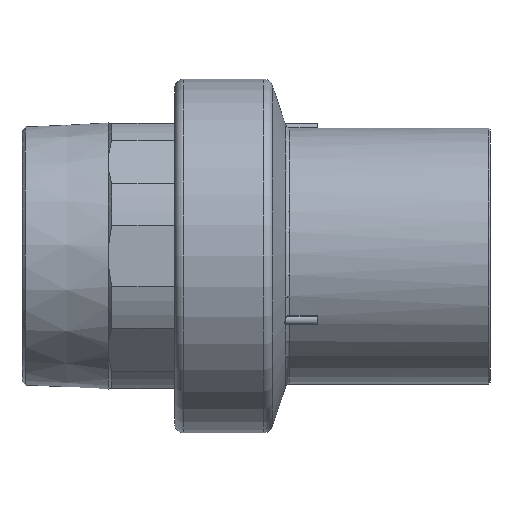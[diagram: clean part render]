
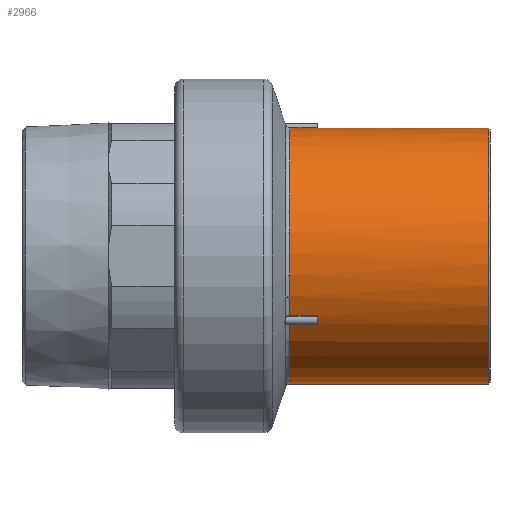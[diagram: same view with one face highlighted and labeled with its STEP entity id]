
A CAD part, front view. The second image highlights one B-rep face of the part: STEP entity #2966.
In plain terms, the highlighted cylindrical face has radius 55 mm (diameter 110 mm), a full revolution.
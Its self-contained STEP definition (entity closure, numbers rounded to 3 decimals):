
#54=B_SPLINE_CURVE_WITH_KNOTS('',3,(#5462,#5463,#5464,#5465),
 .UNSPECIFIED.,.F.,.F.,(4,4),(0.,0.),.UNSPECIFIED.);
#55=B_SPLINE_CURVE_WITH_KNOTS('',3,(#5478,#5479,#5480,#5481),
 .UNSPECIFIED.,.F.,.F.,(4,4),(0.,0.),.UNSPECIFIED.);
#64=B_SPLINE_CURVE_WITH_KNOTS('',3,(#5618,#5619,#5620,#5621),
 .UNSPECIFIED.,.F.,.F.,(4,4),(0.,0.),.UNSPECIFIED.);
#65=B_SPLINE_CURVE_WITH_KNOTS('',3,(#5634,#5635,#5636,#5637),
 .UNSPECIFIED.,.F.,.F.,(4,4),(0.,0.),.UNSPECIFIED.);
#68=B_SPLINE_CURVE_WITH_KNOTS('',3,(#5661,#5662,#5663,#5664),
 .UNSPECIFIED.,.F.,.F.,(4,4),(0.,0.),.UNSPECIFIED.);
#69=B_SPLINE_CURVE_WITH_KNOTS('',3,(#5668,#5669,#5670,#5671),
 .UNSPECIFIED.,.F.,.F.,(4,4),(0.,0.),.UNSPECIFIED.);
#187=LINE('',#5394,#375);
#190=LINE('',#5449,#378);
#191=LINE('',#5556,#379);
#194=LINE('',#5605,#382);
#195=LINE('',#5659,#383);
#196=LINE('',#5673,#384);
#375=VECTOR('',#4426,1000.);
#378=VECTOR('',#4451,1000.);
#379=VECTOR('',#4472,1000.);
#382=VECTOR('',#4497,1000.);
#383=VECTOR('',#4514,1000.);
#384=VECTOR('',#4517,1000.);
#934=ORIENTED_EDGE('',*,*,#1624,.F.);
#935=ORIENTED_EDGE('',*,*,#1629,.T.);
#936=ORIENTED_EDGE('',*,*,#1630,.F.);
#937=ORIENTED_EDGE('',*,*,#1631,.T.);
#938=ORIENTED_EDGE('',*,*,#1632,.F.);
#939=ORIENTED_EDGE('',*,*,#1633,.T.);
#940=ORIENTED_EDGE('',*,*,#1596,.F.);
#941=ORIENTED_EDGE('',*,*,#1607,.T.);
#942=ORIENTED_EDGE('',*,*,#1622,.F.);
#943=ORIENTED_EDGE('',*,*,#1612,.T.);
#944=ORIENTED_EDGE('',*,*,#1623,.F.);
#945=ORIENTED_EDGE('',*,*,#1621,.T.);
#946=ORIENTED_EDGE('',*,*,#1567,.F.);
#947=ORIENTED_EDGE('',*,*,#1578,.T.);
#948=ORIENTED_EDGE('',*,*,#1594,.F.);
#949=ORIENTED_EDGE('',*,*,#1584,.T.);
#950=ORIENTED_EDGE('',*,*,#1595,.F.);
#951=ORIENTED_EDGE('',*,*,#1593,.T.);
#952=ORIENTED_EDGE('',*,*,#1634,.T.);
#1567=EDGE_CURVE('',#1962,#1963,#2217,.T.);
#1578=EDGE_CURVE('',#1962,#1971,#187,.F.);
#1584=EDGE_CURVE('',#1976,#1975,#2225,.F.);
#1593=EDGE_CURVE('',#1979,#1972,#190,.T.);
#1594=EDGE_CURVE('',#1976,#1971,#54,.T.);
#1595=EDGE_CURVE('',#1979,#1975,#55,.T.);
#1596=EDGE_CURVE('',#1980,#1981,#2231,.T.);
#1607=EDGE_CURVE('',#1980,#1988,#191,.F.);
#1612=EDGE_CURVE('',#1992,#1991,#2239,.F.);
#1621=EDGE_CURVE('',#1995,#1963,#194,.T.);
#1622=EDGE_CURVE('',#1992,#1988,#64,.T.);
#1623=EDGE_CURVE('',#1995,#1991,#65,.T.);
#1624=EDGE_CURVE('',#1996,#1972,#2245,.T.);
#1629=EDGE_CURVE('',#1996,#1999,#195,.F.);
#1630=EDGE_CURVE('',#2000,#1999,#68,.T.);
#1631=EDGE_CURVE('',#2000,#2001,#2248,.F.);
#1632=EDGE_CURVE('',#2002,#2001,#69,.T.);
#1633=EDGE_CURVE('',#2002,#1981,#196,.T.);
#1634=EDGE_CURVE('',#2003,#2003,#2249,.F.);
#1962=VERTEX_POINT('',#5323);
#1963=VERTEX_POINT('',#5324);
#1971=VERTEX_POINT('',#5393);
#1972=VERTEX_POINT('',#5412);
#1975=VERTEX_POINT('',#5427);
#1976=VERTEX_POINT('',#5429);
#1979=VERTEX_POINT('',#5447);
#1980=VERTEX_POINT('',#5486);
#1981=VERTEX_POINT('',#5487);
#1988=VERTEX_POINT('',#5555);
#1991=VERTEX_POINT('',#5583);
#1992=VERTEX_POINT('',#5585);
#1995=VERTEX_POINT('',#5603);
#1996=VERTEX_POINT('',#5642);
#1999=VERTEX_POINT('',#5660);
#2000=VERTEX_POINT('',#5665);
#2001=VERTEX_POINT('',#5667);
#2002=VERTEX_POINT('',#5672);
#2003=VERTEX_POINT('',#5675);
#2217=CIRCLE('',#3870,55.);
#2225=CIRCLE('',#3880,55.);
#2231=CIRCLE('',#3891,55.);
#2239=CIRCLE('',#3901,55.);
#2245=CIRCLE('',#3912,55.);
#2248=CIRCLE('',#3917,55.);
#2249=CIRCLE('',#3918,55.);
#2457=EDGE_LOOP('',(#934,#935,#936,#937,#938,#939,#940,#941,#942,#943,#944,
#945,#946,#947,#948,#949,#950,#951));
#2458=EDGE_LOOP('',(#952));
#2699=FACE_BOUND('',#2457,.T.);
#2700=FACE_BOUND('',#2458,.T.);
#2857=CYLINDRICAL_SURFACE('',#3916,55.);
#2966=ADVANCED_FACE('',(#2699,#2700),#2857,.T.);
#3870=AXIS2_PLACEMENT_3D('',#5322,#4412,#4413);
#3880=AXIS2_PLACEMENT_3D('',#5428,#4434,#4435);
#3891=AXIS2_PLACEMENT_3D('',#5485,#4458,#4459);
#3901=AXIS2_PLACEMENT_3D('',#5584,#4480,#4481);
#3912=AXIS2_PLACEMENT_3D('',#5641,#4504,#4505);
#3916=AXIS2_PLACEMENT_3D('',#5658,#4512,#4513);
#3917=AXIS2_PLACEMENT_3D('',#5666,#4515,#4516);
#3918=AXIS2_PLACEMENT_3D('',#5674,#4518,#4519);
#4412=DIRECTION('',(-1.,0.,0.));
#4413=DIRECTION('',(0.,0.,1.));
#4426=DIRECTION('',(-1.,0.,0.));
#4434=DIRECTION('',(-1.,0.,0.));
#4435=DIRECTION('',(0.,0.5,0.866));
#4451=DIRECTION('',(-1.,0.,0.));
#4458=DIRECTION('',(-1.,0.,0.));
#4459=DIRECTION('',(0.,0.,1.));
#4472=DIRECTION('',(-1.,0.,0.));
#4480=DIRECTION('',(-1.,0.,0.));
#4481=DIRECTION('',(0.,0.5,-0.866));
#4497=DIRECTION('',(-1.,0.,0.));
#4504=DIRECTION('',(-1.,0.,0.));
#4505=DIRECTION('',(0.,0.,1.));
#4512=DIRECTION('',(-1.,0.,0.));
#4513=DIRECTION('',(0.,0.,1.));
#4514=DIRECTION('',(-1.,0.,0.));
#4515=DIRECTION('',(-1.,0.,0.));
#4516=DIRECTION('',(0.,-1.,0.));
#4517=DIRECTION('',(-1.,0.,0.));
#4518=DIRECTION('',(1.,0.,0.));
#4519=DIRECTION('',(0.,0.,-1.));
#5322=CARTESIAN_POINT('',(49.5,0.,0.));
#5323=CARTESIAN_POINT('',(49.5,46.55,-29.294));
#5324=CARTESIAN_POINT('',(49.5,-46.55,-29.294));
#5393=CARTESIAN_POINT('',(61.4,46.55,-29.294));
#5394=CARTESIAN_POINT('',(-60.,46.55,-29.294));
#5412=CARTESIAN_POINT('',(49.5,48.644,-25.667));
#5427=CARTESIAN_POINT('',(61.6,48.55,-25.844));
#5428=CARTESIAN_POINT('',(61.6,0.,0.));
#5429=CARTESIAN_POINT('',(61.6,46.656,-29.124));
#5447=CARTESIAN_POINT('',(61.4,48.644,-25.667));
#5449=CARTESIAN_POINT('',(-60.,48.644,-25.667));
#5462=CARTESIAN_POINT('',(61.6,46.656,-29.124));
#5463=CARTESIAN_POINT('',(61.6,46.6,-29.213));
#5464=CARTESIAN_POINT('',(61.506,46.55,-29.294));
#5465=CARTESIAN_POINT('',(61.4,46.55,-29.294));
#5478=CARTESIAN_POINT('',(61.4,48.644,-25.667));
#5479=CARTESIAN_POINT('',(61.506,48.644,-25.667));
#5480=CARTESIAN_POINT('',(61.6,48.6,-25.75));
#5481=CARTESIAN_POINT('',(61.6,48.55,-25.844));
#5485=CARTESIAN_POINT('',(49.5,0.,0.));
#5486=CARTESIAN_POINT('',(49.5,-48.644,-25.667));
#5487=CARTESIAN_POINT('',(49.5,-2.094,54.96));
#5555=CARTESIAN_POINT('',(61.4,-48.644,-25.667));
#5556=CARTESIAN_POINT('',(-60.,-48.644,-25.667));
#5583=CARTESIAN_POINT('',(61.6,-46.656,-29.124));
#5584=CARTESIAN_POINT('',(61.6,0.,0.));
#5585=CARTESIAN_POINT('',(61.6,-48.55,-25.844));
#5603=CARTESIAN_POINT('',(61.4,-46.55,-29.294));
#5605=CARTESIAN_POINT('',(-60.,-46.55,-29.294));
#5618=CARTESIAN_POINT('',(61.6,-48.55,-25.844));
#5619=CARTESIAN_POINT('',(61.6,-48.6,-25.75));
#5620=CARTESIAN_POINT('',(61.506,-48.644,-25.667));
#5621=CARTESIAN_POINT('',(61.4,-48.644,-25.667));
#5634=CARTESIAN_POINT('',(61.4,-46.55,-29.294));
#5635=CARTESIAN_POINT('',(61.506,-46.55,-29.294));
#5636=CARTESIAN_POINT('',(61.6,-46.6,-29.213));
#5637=CARTESIAN_POINT('',(61.6,-46.656,-29.124));
#5641=CARTESIAN_POINT('',(49.5,0.,0.));
#5642=CARTESIAN_POINT('',(49.5,2.094,54.96));
#5658=CARTESIAN_POINT('',(-60.,0.,0.));
#5659=CARTESIAN_POINT('',(-60.,2.094,54.96));
#5660=CARTESIAN_POINT('',(61.4,2.094,54.96));
#5661=CARTESIAN_POINT('',(61.6,1.894,54.967));
#5662=CARTESIAN_POINT('',(61.6,1.999,54.964));
#5663=CARTESIAN_POINT('',(61.506,2.094,54.96));
#5664=CARTESIAN_POINT('',(61.4,2.094,54.96));
#5665=CARTESIAN_POINT('',(61.6,1.894,54.967));
#5666=CARTESIAN_POINT('',(61.6,0.,0.));
#5667=CARTESIAN_POINT('',(61.6,-1.894,54.967));
#5668=CARTESIAN_POINT('',(61.4,-2.094,54.96));
#5669=CARTESIAN_POINT('',(61.506,-2.094,54.96));
#5670=CARTESIAN_POINT('',(61.6,-1.999,54.964));
#5671=CARTESIAN_POINT('',(61.6,-1.894,54.967));
#5672=CARTESIAN_POINT('',(61.4,-2.094,54.96));
#5673=CARTESIAN_POINT('',(-60.,-2.094,54.96));
#5674=CARTESIAN_POINT('',(135.,0.,0.));
#5675=CARTESIAN_POINT('',(135.,0.,-55.));
